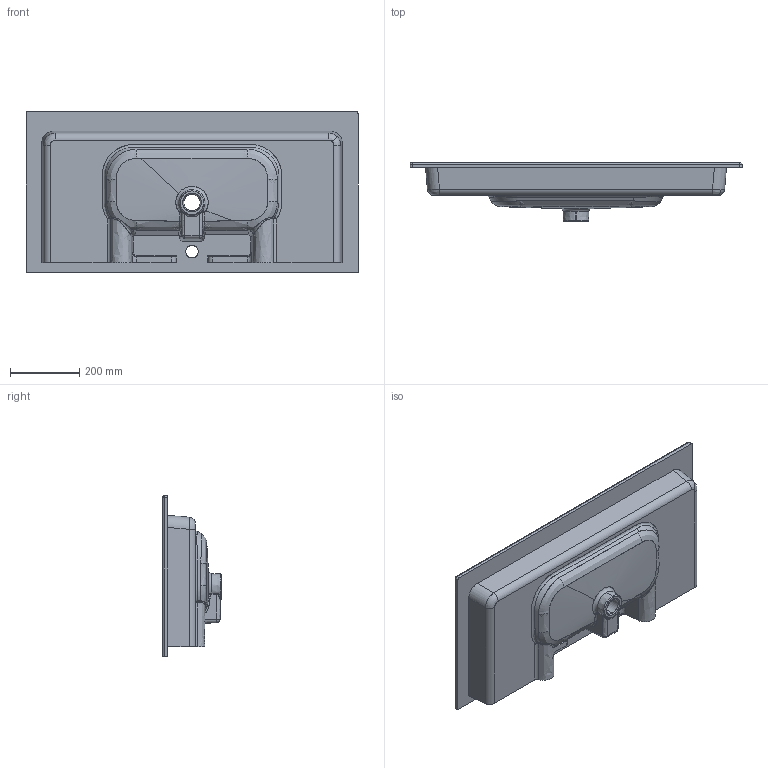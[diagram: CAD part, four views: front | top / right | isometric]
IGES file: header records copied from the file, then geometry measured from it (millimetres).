
Start section: SolidWorks IGES file using analytic representation for surfaces
Global section: file name: C:\schede rappr\qubo\qubo 96 prof. 465\qubo 96 art.878 -465.IGS; native system: SolidWorks 2011; preprocessor: SolidWorks 2011; author: fabioabballe; date: 140319.131111; units: millimetre
Bounding box: 960 x 170 x 465 mm (x, y, z)
Surface area: 1278176.2 mm2 (no closed solid volume)
Topology: 0 solids, 0 shells, 148 faces, 3091 edges, 3089 vertices
Faces by surface type: bspline 106, revolution 42
